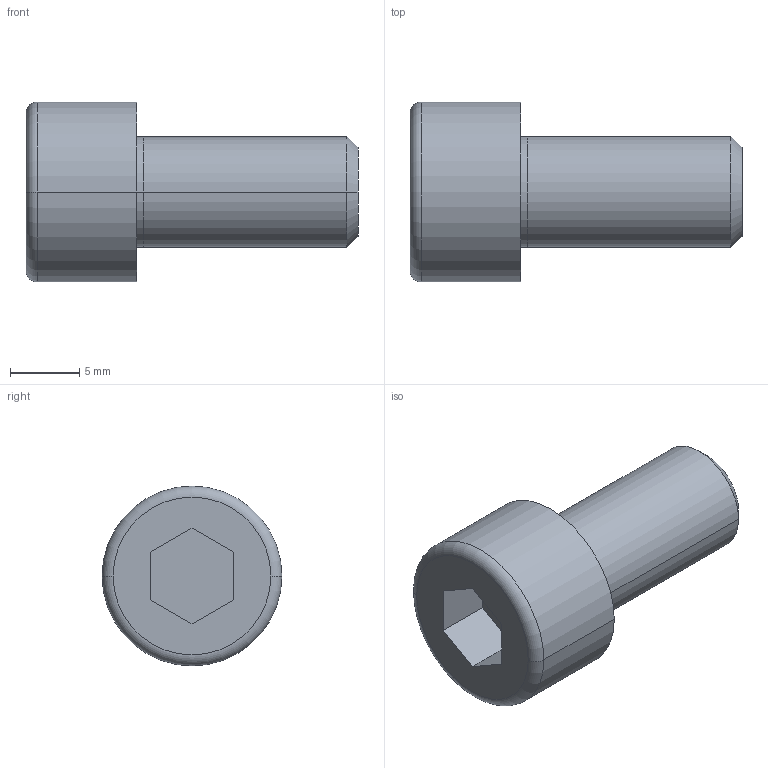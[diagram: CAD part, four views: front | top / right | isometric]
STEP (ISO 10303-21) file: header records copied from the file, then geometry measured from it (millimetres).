
FILE_DESCRIPTION((''),'2;1');
FILE_NAME('ZYLINDERSCHRAUBE_ISO_4762_M8X16','2022-06-13T16:16:52',('H041970'),(''),'CREO PARAMETRIC BY PTC INC, 2021284','CREO PARAMETRIC BY PTC INC, 2021284','');
FILE_SCHEMA(('CONFIG_CONTROL_DESIGN'));
Length unit declared in the file: millimetre
Products named in the file (1): ZYLINDERSCHRAUBE_ISO_4762_M8X16
Bounding box: 24 x 13 x 13 mm (x, y, z)
Volume: 1728.4 mm3; surface area: 1380.3 mm2
Topology: 1 solids, 2 shells, 21 faces, 47 edges, 32 vertices
Faces by surface type: plane 11, cylinder 6, cone 2, torus 2
Entity records: 666 total; most frequent: CARTESIAN_POINT 135, DIRECTION 107, ORIENTED_EDGE 88, EDGE_CURVE 46, AXIS2_PLACEMENT_3D 40, VERTEX_POINT 30, VECTOR 27, LINE 27
